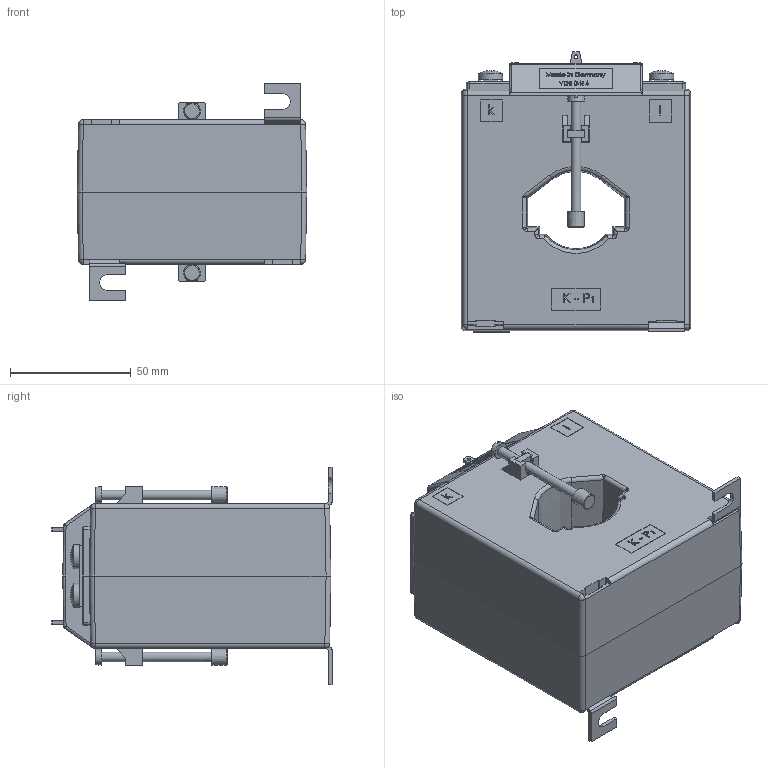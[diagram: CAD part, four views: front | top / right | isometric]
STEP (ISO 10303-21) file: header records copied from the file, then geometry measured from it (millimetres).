
FILE_DESCRIPTION(/* description */ (''),/* implementation_level */ '2;1');
FILE_NAME(/* name */ 'ASK41.6.stp',/* time_stamp */ '2024-03-04T12:46:15+01:00',/* author */ ('JDI'),/* organization */ (''),/* preprocessor_version */ 'ST-DEVELOPER v19.2',/* originating_system */ 'Autodesk Inventor 2023',/* authorisation */ '');
FILE_SCHEMA (('AUTOMOTIVE_DESIGN { 1 0 10303 214 3 1 1 }'));
Products named in the file (1): ASK41.6
Bounding box: 95 x 116 x 90 mm (x, y, z)
Volume: 535511.2 mm3; surface area: 57976.1 mm2
Topology: 3 solids, 3 shells, 1356 faces, 3539 edges, 2241 vertices
Faces by surface type: plane 912, bspline 266, cylinder 124, sphere 20, torus 18, cone 16
Full cylindrical faces by diameter (mm): 1.6 x2, 4 x4, 4.1 x2, 10 x4
Entity records: 54815 total; most frequent: CARTESIAN_POINT 21757, ORIENTED_EDGE 7062, DIRECTION 5704, EDGE_CURVE 3531, LINE 2568, VECTOR 2568, VERTEX_POINT 2241, AXIS2_PLACEMENT_3D 1568
